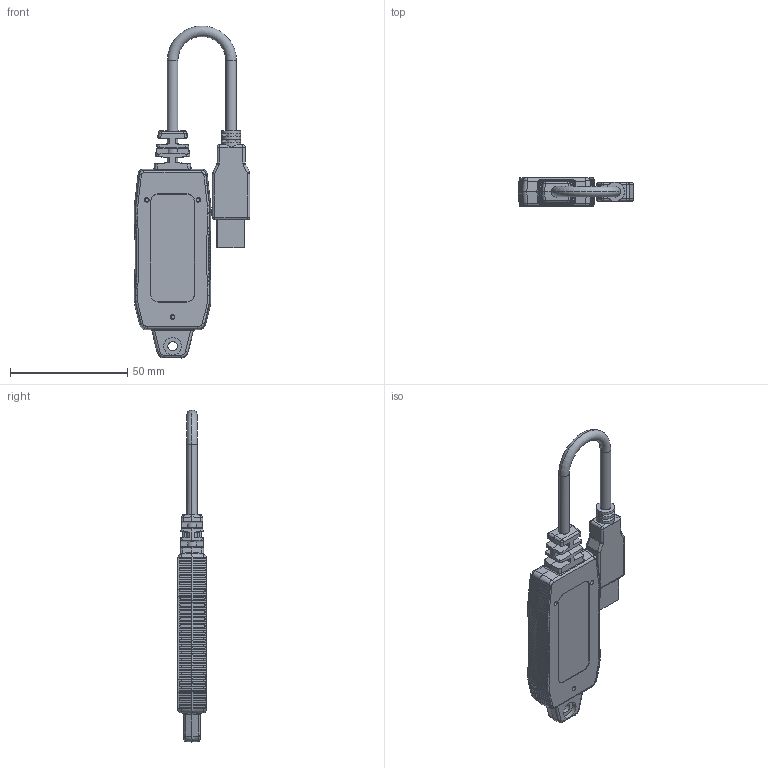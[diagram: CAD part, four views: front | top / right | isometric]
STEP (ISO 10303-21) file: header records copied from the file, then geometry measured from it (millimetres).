
FILE_DESCRIPTION((''),'2;1');
FILE_NAME('PRT0001','2017-12-14T',('Sam_Liu'),('PTC'),'PRO/ENGINEER BY PARAMETRIC TECHNOLOGY CORPORATION, 2013320','PRO/ENGINEER BY PARAMETRIC TECHNOLOGY CORPORATION, 2013320','');
FILE_SCHEMA(('AUTOMOTIVE_DESIGN { 1 0 10303 214 1 1 1 1 }'));
Products named in the file (1): PRT0001
Bounding box: 49.44 x 12 x 141.75 mm (x, y, z)
Volume: 29894.8 mm3; surface area: 25528.6 mm2
Topology: 1 solids, 8 shells, 1297 faces, 3593 edges, 2314 vertices
Faces by surface type: cylinder 571, plane 508, cone 128, torus 36, bspline 18, sphere 18, extrusion 18
Entity records: 59733 total; most frequent: CARTESIAN_POINT 12373, ORIENTED_EDGE 7122, DIRECTION 6297, PRESENTATION_STYLE_ASSIGNMENT 4192, STYLED_ITEM 3580, CURVE_STYLE 3575, EDGE_CURVE 3575, VERTEX_POINT 2314
